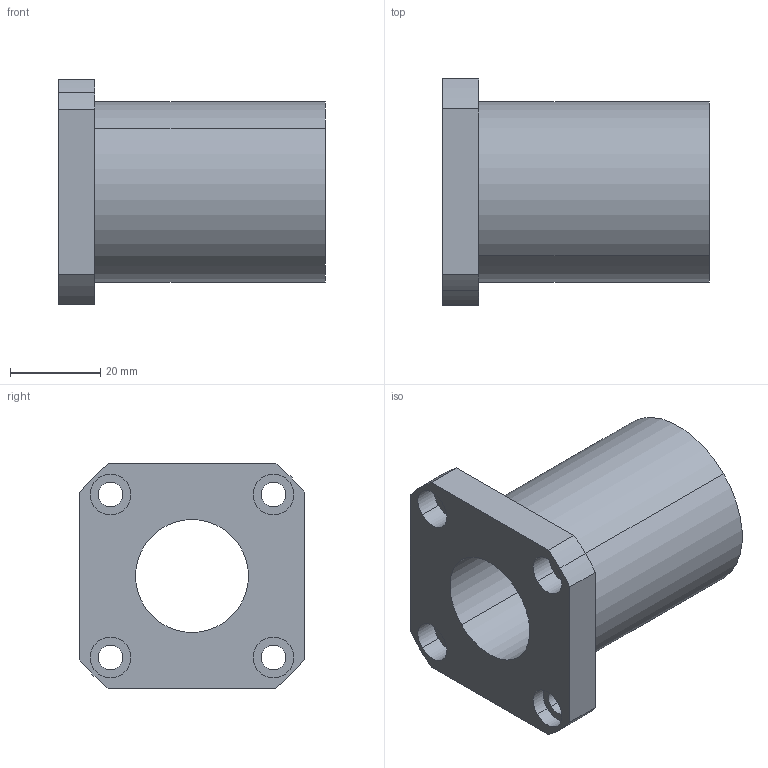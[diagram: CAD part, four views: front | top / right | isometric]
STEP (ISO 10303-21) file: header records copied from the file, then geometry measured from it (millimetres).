
FILE_DESCRIPTION (( 'STEP AP214' ), '1' );
FILE_NAME ('2.7051 Lineaarilaakeri LMK25UU.STEP', '2024-06-24T12:12:17', ( '' ), ( '' ), 'SwSTEP 2.0', 'SolidWorks 2024', '' );
FILE_SCHEMA (( 'AUTOMOTIVE_DESIGN' ));
Length unit declared in the file: millimetre
Products named in the file (1): 2.7051 Lineaarilaakeri LMK25UU
Bounding box: 59 x 50 x 50 mm (x, y, z)
Volume: 52994.2 mm3; surface area: 16942.5 mm2
Topology: 1 solids, 1 shells, 37 faces, 90 edges, 60 vertices
Faces by surface type: cylinder 26, plane 11
Entity records: 1159 total; most frequent: DIRECTION 218, CARTESIAN_POINT 188, ORIENTED_EDGE 180, EDGE_CURVE 90, AXIS2_PLACEMENT_3D 90, VERTEX_POINT 60, CIRCLE 52, EDGE_LOOP 52
